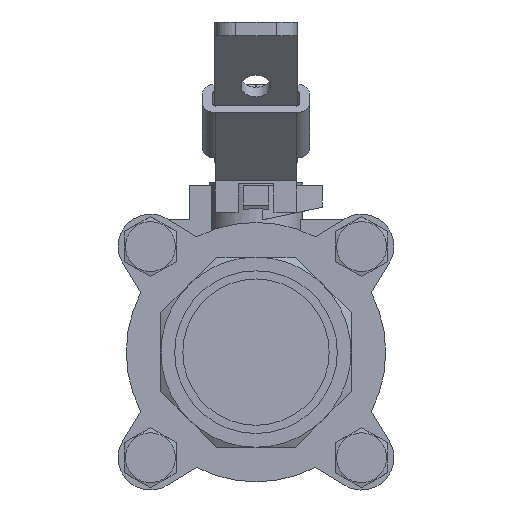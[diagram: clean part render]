
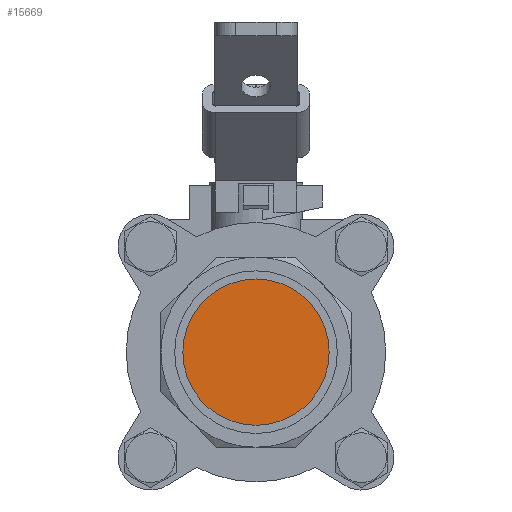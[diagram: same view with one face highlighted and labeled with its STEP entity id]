
A CAD part, left-side view. The second image highlights one B-rep face of the part: STEP entity #15669.
In plain terms, the highlighted planar face has unit normal (-1, 0, 0).
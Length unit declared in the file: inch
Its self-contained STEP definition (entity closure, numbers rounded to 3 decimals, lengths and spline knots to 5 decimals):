
#15637=CARTESIAN_POINT('',(0.05,0.26769,1.24981));
#15638=VERTEX_POINT('',#15637);
#15639=CARTESIAN_POINT('',(0.05,-1.24981,1.24981));
#15640=DIRECTION('',(1.0,0.0,0.0));
#15641=DIRECTION('',(0.0,1.0,0.0));
#15642=AXIS2_PLACEMENT_3D('',#15639,#15640,#15641);
#15643=CIRCLE('',#15642,1.5175);
#15644=EDGE_CURVE('',#15638,#15638,#15643,.T.);
#15661=CARTESIAN_POINT('',(0.05,-1.24981,1.24981));
#15662=DIRECTION('',(1.0,0.0,0.0));
#15663=DIRECTION('',(0.0,0.0,-1.0));
#15664=AXIS2_PLACEMENT_3D('',#15661,#15662,#15663);
#15665=PLANE('',#15664);
#15666=ORIENTED_EDGE('',*,*,#15644,.F.);
#15667=EDGE_LOOP('',(#15666));
#15668=FACE_OUTER_BOUND('',#15667,.T.);
#15669=ADVANCED_FACE('',(#15668),#15665,.F.);
